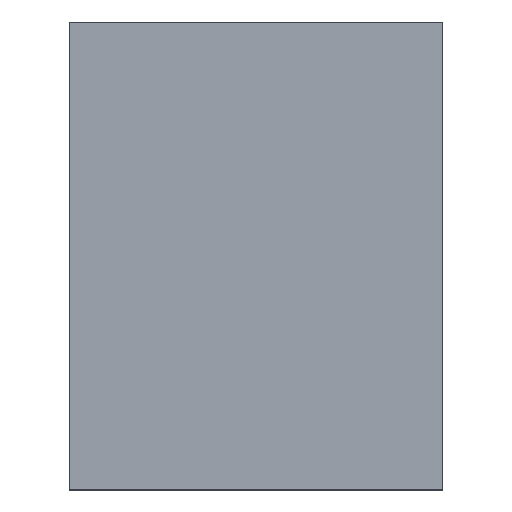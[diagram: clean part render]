
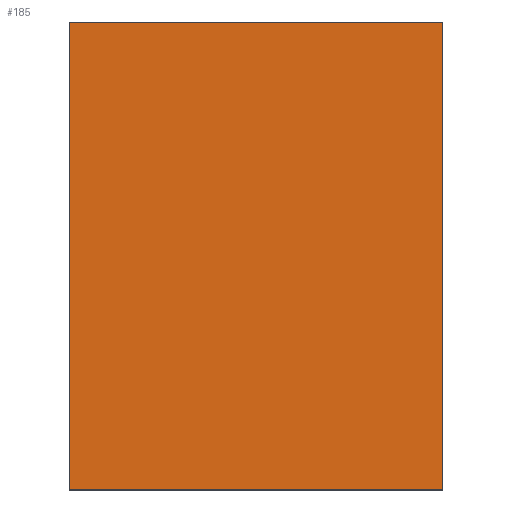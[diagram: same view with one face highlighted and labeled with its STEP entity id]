
A CAD part, top view. The second image highlights one B-rep face of the part: STEP entity #185.
In plain terms, the highlighted planar face has unit normal (0, 0, 1).
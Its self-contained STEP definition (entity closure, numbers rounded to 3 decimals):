
#19=FACE_OUTER_BOUND('',#29,.T.);
#29=EDGE_LOOP('',(#139,#140,#141,#142));
#47=LINE('',#288,#71);
#48=LINE('',#291,#72);
#49=LINE('',#293,#73);
#50=LINE('',#294,#74);
#71=VECTOR('',#237,10.);
#72=VECTOR('',#240,10.);
#73=VECTOR('',#241,10.);
#74=VECTOR('',#242,10.);
#91=VERTEX_POINT('',#284);
#92=VERTEX_POINT('',#286);
#93=VERTEX_POINT('',#290);
#94=VERTEX_POINT('',#292);
#111=EDGE_CURVE('',#91,#92,#47,.T.);
#112=EDGE_CURVE('',#91,#93,#48,.T.);
#113=EDGE_CURVE('',#94,#92,#49,.T.);
#114=EDGE_CURVE('',#93,#94,#50,.T.);
#139=ORIENTED_EDGE('',*,*,#112,.F.);
#140=ORIENTED_EDGE('',*,*,#111,.T.);
#141=ORIENTED_EDGE('',*,*,#113,.F.);
#142=ORIENTED_EDGE('',*,*,#114,.F.);
#175=PLANE('',#209);
#185=ADVANCED_FACE('',(#19),#175,.T.);
#209=AXIS2_PLACEMENT_3D('',#289,#238,#239);
#237=DIRECTION('',(0.,1.,0.));
#238=DIRECTION('center_axis',(0.,0.,1.));
#239=DIRECTION('ref_axis',(1.,0.,0.));
#240=DIRECTION('',(-1.,0.,0.));
#241=DIRECTION('',(1.,0.,0.));
#242=DIRECTION('',(0.,1.,0.));
#284=CARTESIAN_POINT('',(8.,0.,7.));
#286=CARTESIAN_POINT('',(8.,10.,7.));
#288=CARTESIAN_POINT('',(8.,0.,7.));
#289=CARTESIAN_POINT('Origin',(0.,0.,7.));
#290=CARTESIAN_POINT('',(0.,0.,7.));
#291=CARTESIAN_POINT('',(8.,0.,7.));
#292=CARTESIAN_POINT('',(0.,10.,7.));
#293=CARTESIAN_POINT('',(8.,10.,7.));
#294=CARTESIAN_POINT('',(0.,0.,7.));
